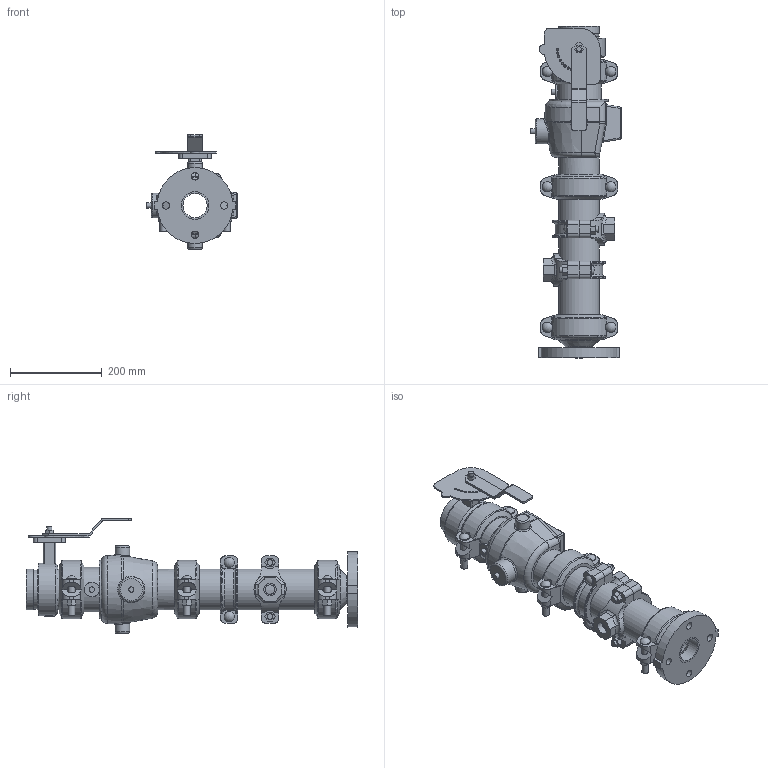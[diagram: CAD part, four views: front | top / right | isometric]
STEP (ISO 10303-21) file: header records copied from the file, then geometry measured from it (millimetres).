
FILE_DESCRIPTION(/* description */ ('VIC DVI PUMP DROP VERT S/390 (OGSxFLG)','CAx-IF Rec.Pracs.---Representation and Presentation of Product Manufacturing Information (PMI)---4.0---2014-10-13'),/* implementation_level */ '2;1');
FILE_NAME(/* name */ 'C:\Users\Vjadhav\AppData\Roaming\Autodesk\ApplicationPlugins\Back Up\Victaulic_IPS_Vertical DVI_PN10_Series 390 (OGSxFLG)\Victaulic_IPS_Vertical DVI_PN10_Series 390 (OGSxFLG)_03.0x02.0 (80x50).stp',/* time_stamp */ '2020-11-09T17:49:48+05:00',/* author */ ('Vjadhav'),/* organization */ ('Victaulic'),/* preprocessor_version */ 'ST-DEVELOPER v17.2',/* originating_system */ 'Autodesk Inventor 2019',/* authorisation */ '');
FILE_SCHEMA (('AP242_MANAGED_MODEL_BASED_3D_ENGINEERING_MIM_LF { 1 0 10303 442 1 1 4 }'));
Length unit declared in the file: inch
Products named in the file (10): 390-03.0x02.0; 741-02.0; 050-03.0x02.0; Pipe-03.0; 716H-03.0; 177N-03.0; 761-03.0; 920NT-03.0x0.75; 920N LOWER HSG-03.0; 920NT-03.0x0.75_1
Assembly tree (12 placements, depth 3):
  390-03.0x02.0
    741-02.0
    050-03.0x02.0
    177N-03.0  x3
    Pipe-03.0
    716H-03.0
    761-03.0
    920NT-03.0x0.75  x2
      920N LOWER HSG-03.0
      920NT-03.0x0.75_1
Bounding box: 197.61 x 722.12 x 249.43 mm (x, y, z)
Volume: 4688925.8 mm3; surface area: 886959.2 mm2
Topology: 12 solids, 13 shells, 767 faces, 2021 edges, 1330 vertices
Faces by surface type: plane 387, cylinder 278, torus 35, bspline 35, cone 16, sphere 16
Full cylindrical faces by diameter (mm): 4.826 x10, 8.636 x4, 10.922 x2, 11.43 x2, 12.7 x8, 14.605 x6, 16.002 x4, 20.93 x2, 21.982 x4, 22.225 x6, 22.86 x1, 26.924 x2, 31.75 x2, 32.004 x1, 52.502 x1, 53.975 x1, 55.118 x1, 57.15 x1, 60.325 x3, 76.2 x3, 77.927 x3, 80.772 x1, 84.938 x7, 88.9 x18, 97.028 x1, 114.3 x1, 127 x1
Entity records: 16910 total; most frequent: CARTESIAN_POINT 4339, DIRECTION 2529, ORIENTED_EDGE 2408, EDGE_CURVE 1204, AXIS2_PLACEMENT_3D 975, VERTEX_POINT 790, LINE 579, VECTOR 579
